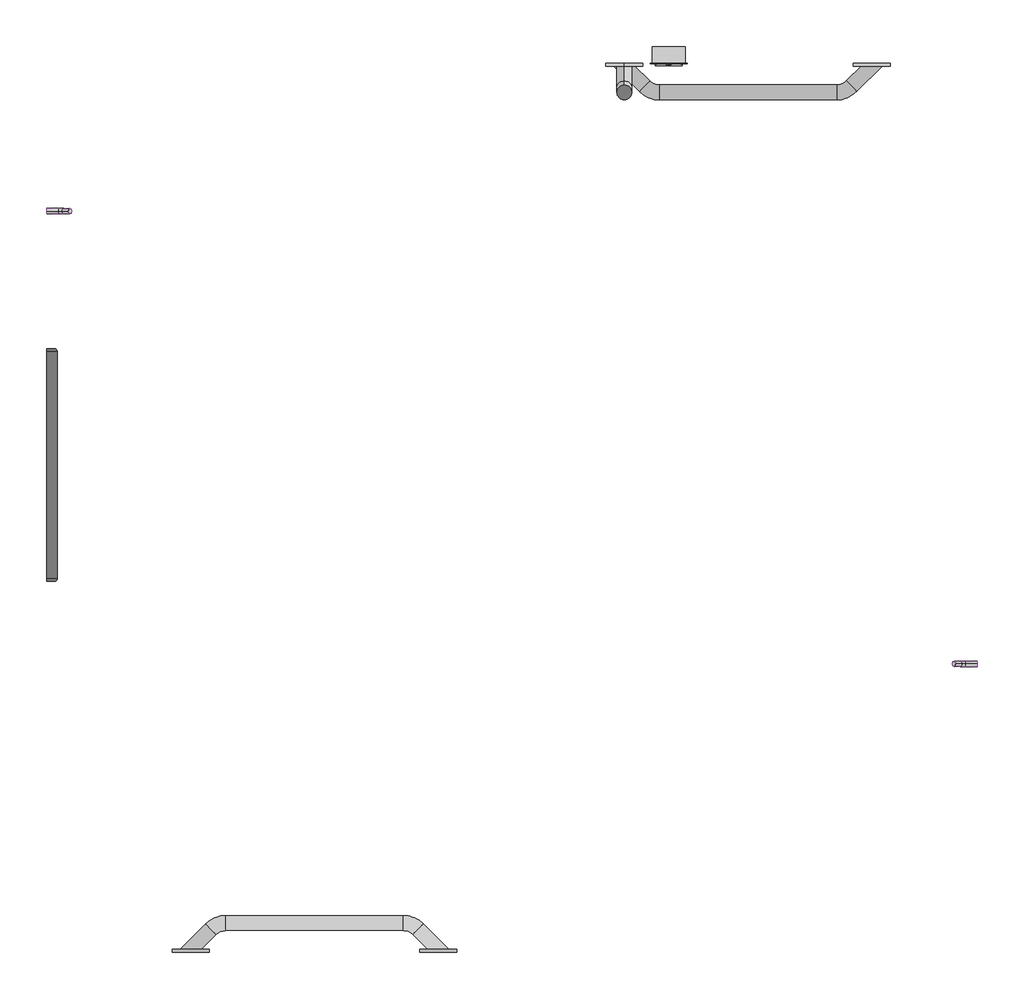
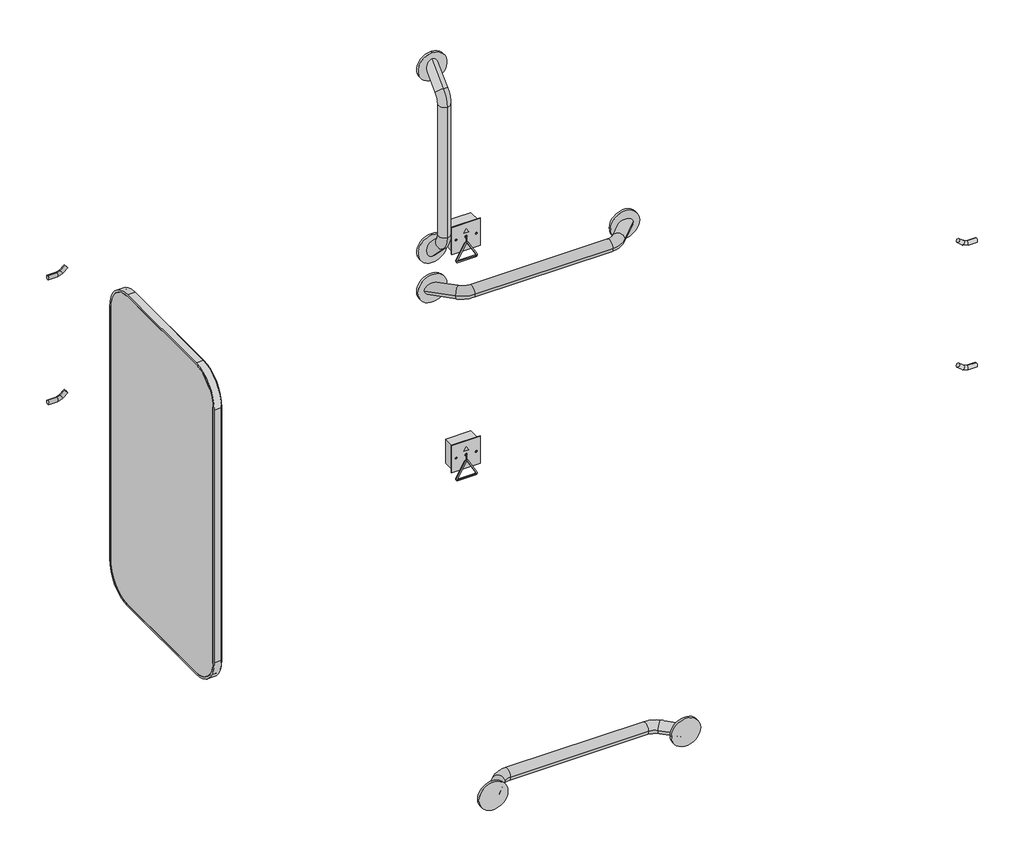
# One storey, incomplete: 10 proxies.
"""IFC4 building model written with IfcOpenShell, lengths in millimetres."""

import ifcopenshell
import ifcopenshell.guid

model = None  # the IFC model being written
_history = None  # IfcOwnerHistory: only IFC2X3 demands one
_inside = {}  # id of a spatial element -> (the spatial element, [elements in it])
_under = {}  # id of a project, library or spatial element -> (it, [spatial elements below it])
_declared = {}  # id of a project -> (the project, [libraries it declares])
_typed = {}  # id of a type object -> (the type object, [elements of that type])
_made_of = {}  # id of a material, layer set ... -> (it, [elements and type objects made of it])


def new_model(schema):
    """Start an empty IFC model of exactly this schema.

    Asked for "IFC4X3", IfcOpenShell would pick the latest addendum, in which some entities
    have other attributes; the version numbers below select the first issue.
    IFC2X3 requires an IfcOwnerHistory on every rooted entity: one is made here for all.
    """
    global model, _history
    if schema == "IFC4X3":
        model = ifcopenshell.file(schema_version=(4, 3, 0, 0))
    else:
        model = ifcopenshell.file(schema=schema)
    _inside.clear()
    _under.clear()
    _declared.clear()
    _typed.clear()
    _made_of.clear()
    _history = None
    if model.schema == "IFC2X3":
        org = make("IfcOrganization", Name="unknown")
        user = make(
            "IfcPersonAndOrganization",
            ThePerson=make("IfcPerson", FamilyName="unknown"),
            TheOrganization=org,
        )
        app = make(
            "IfcApplication",
            ApplicationDeveloper=org,
            Version="unknown",
            ApplicationFullName="unknown",
            ApplicationIdentifier="unknown",
        )
        _history = make(
            "IfcOwnerHistory",
            OwningUser=user,
            OwningApplication=app,
            ChangeAction="ADDED",
            CreationDate=0,
        )
    return model


def make(cls, **values):
    """One entity of the class cls with the attributes given. An attribute that is None is left unset."""
    return model.create_entity(
        cls, **{name: value for name, value in values.items() if value is not None}
    )


def rooted(cls, **values):
    """An entity with a GlobalId (a new one), such as an element, a storey or a relation."""
    return make(cls, GlobalId=ifcopenshell.guid.new(), OwnerHistory=_history, **values)


def si_unit(unit_type, name, prefix=None):
    """IfcSIUnit, for example si_unit("LENGTHUNIT", "METRE", prefix="MILLI")."""
    return make("IfcSIUnit", UnitType=unit_type, Prefix=prefix, Name=name)


def assignment(units):
    """IfcUnitAssignment: the units of a project."""
    return None if units is None else make("IfcUnitAssignment", Units=units)


def point(xyz):
    """IfcCartesianPoint."""
    return None if xyz is None else make("IfcCartesianPoint", Coordinates=xyz)


def direction(xyz):
    """IfcDirection."""
    return None if xyz is None else make("IfcDirection", DirectionRatios=xyz)


def frame(location, z_axis=None, x_axis=None):
    """IfcAxis2Placement3D, a coordinate frame: its origin and axes. An axis left out is left unset."""
    return make(
        "IfcAxis2Placement3D",
        Location=point(location),
        Axis=direction(z_axis),
        RefDirection=direction(x_axis),
    )


def frame_2d(location, x_axis=None):
    """IfcAxis2Placement2D, a coordinate frame in the plane: its origin and x axis."""
    return make(
        "IfcAxis2Placement2D", Location=point(location), RefDirection=direction(x_axis)
    )


def origin():
    """The frame at (0, 0, 0) with its axes left unset."""
    return frame((0.0, 0.0, 0.0))


def place(relative_to, where):
    """IfcLocalPlacement: puts the frame where relative to a parent placement (None: the world)."""
    return make(
        "IfcLocalPlacement", PlacementRelTo=relative_to, RelativePlacement=where
    )


def context(
    kind, dimensions, precision=None, world=None, true_north=None, identifier=None
):
    """IfcGeometricRepresentationContext, for example the 3D "Model" context."""
    return make(
        "IfcGeometricRepresentationContext",
        ContextIdentifier=identifier,
        ContextType=kind,
        CoordinateSpaceDimension=dimensions,
        Precision=precision,
        WorldCoordinateSystem=world,
        TrueNorth=true_north,
    )


def project(units=None, contexts=None):
    """IfcProject with its units and contexts."""
    return rooted(
        "IfcProject",
        Name="project",
        RepresentationContexts=contexts,
        UnitsInContext=assignment(units),
    )


def spatial(cls, under=None, at=None, **own):
    """A site, building, storey or space (cls), placed at a placement, below another one or the project."""
    s = rooted(cls, ObjectPlacement=at, **own)
    if under is not None:
        _under.setdefault(under.id(), (under, []))[1].append(s)
    return s


def polyline(points):
    """IfcPolyline through the points."""
    return make("IfcPolyline", Points=[point(p) for p in points])


def circle_curve(where, radius):
    """IfcCircle in the frame where."""
    return make("IfcCircle", Position=where, Radius=radius)


def ellipse_curve(where, semi_axis1, semi_axis2):
    """IfcEllipse in the frame where."""
    return make(
        "IfcEllipse", Position=where, SemiAxis1=semi_axis1, SemiAxis2=semi_axis2
    )


def trimmed(basis, trim1, trim2, sense, master):
    """IfcTrimmedCurve: the piece of a basis curve between two trims."""
    return make(
        "IfcTrimmedCurve",
        BasisCurve=basis,
        Trim1=trim1,
        Trim2=trim2,
        SenseAgreement=sense,
        MasterRepresentation=master,
    )


def segment(curve, same_sense, transition):
    """IfcCompositeCurveSegment."""
    return make(
        "IfcCompositeCurveSegment",
        Transition=transition,
        SameSense=same_sense,
        ParentCurve=curve,
    )


def composite_curve(segments, self_intersect=None):
    """IfcCompositeCurve: segments joined end to end."""
    return make("IfcCompositeCurve", Segments=segments, SelfIntersect=self_intersect)


def outline(outer, holes=None, kind="AREA"):
    """IfcArbitraryClosedProfileDef: a profile drawn as a closed curve; with holes, ...WithVoids."""
    if holes is None:
        return make("IfcArbitraryClosedProfileDef", ProfileType=kind, OuterCurve=outer)
    return make(
        "IfcArbitraryProfileDefWithVoids",
        ProfileType=kind,
        OuterCurve=outer,
        InnerCurves=holes,
    )


def extrude(swept, where, along, depth):
    """IfcExtrudedAreaSolid: the profile swept, set in the frame where, extruded along a direction by depth."""
    return make(
        "IfcExtrudedAreaSolid",
        SweptArea=swept,
        Position=where,
        ExtrudedDirection=direction(along),
        Depth=depth,
    )


def shape(context_of_items, identifier, shape_type, items):
    """IfcShapeRepresentation: the items that make up one representation, for example the "Body"."""
    return make(
        "IfcShapeRepresentation",
        ContextOfItems=context_of_items,
        RepresentationIdentifier=identifier,
        RepresentationType=shape_type,
        Items=items,
    )


def source(mapping_origin, context_of_items, identifier, shape_type, items):
    """IfcRepresentationMap: a shape defined once, which mapped items show again and again."""
    return make(
        "IfcRepresentationMap",
        MappingOrigin=mapping_origin,
        MappedRepresentation=shape(context_of_items, identifier, shape_type, items),
    )


def transform(
    local_origin,
    x_axis=None,
    y_axis=None,
    z_axis=None,
    scale=None,
    scale2=None,
    scale3=None,
    uniform=True,
):
    """IfcCartesianTransformationOperator3D, or its non-uniform kind. x_axis, y_axis, z_axis: its Axis1, 2, 3."""
    if uniform:
        return make(
            "IfcCartesianTransformationOperator3D",
            Axis1=direction(x_axis),
            Axis2=direction(y_axis),
            LocalOrigin=point(local_origin),
            Scale=scale,
            Axis3=direction(z_axis),
        )
    return make(
        "IfcCartesianTransformationOperator3DnonUniform",
        Axis1=direction(x_axis),
        Axis2=direction(y_axis),
        LocalOrigin=point(local_origin),
        Scale=scale,
        Axis3=direction(z_axis),
        Scale2=scale2,
        Scale3=scale3,
    )


def mapped(mapping_source, mapping_target):
    """IfcMappedItem: shows the shape of a source again, moved by a transform."""
    return make(
        "IfcMappedItem", MappingSource=mapping_source, MappingTarget=mapping_target
    )


def made_of(thing, what):
    """Note that an element or type object is made of a material, layer set ...; save() writes the relation."""
    if what is not None:
        _made_of.setdefault(what.id(), (what, []))[1].append(thing)
    return thing


def element(
    cls,
    number,
    at=None,
    inside=None,
    cuts=None,
    type_object=None,
    material=None,
    context=None,
    identifier="Body",
    shape_type=None,
    held_by="IfcProductDefinitionShape",
    body=None,
    shapes=None,
    **own,
):
    """One element of the class cls, such as IfcWall. Its Tag is "e" and its number.

    at: its placement. inside: the storey or other place that contains it. cuts: it is an
    opening in that element (IfcRelVoidsElement). A single representation is given by context,
    identifier, shape_type and body (its items); several are given by shapes. held_by: the class
    of the entity that holds the representations. save() writes the other relations.
    """
    e = rooted(cls, Tag="e%d" % number, ObjectPlacement=at, **own)
    if body is not None:
        shapes = [shape(context, identifier, shape_type, body)]
    if shapes is not None:
        e.Representation = make(held_by, Representations=shapes)
    if inside is not None:
        _inside.setdefault(inside.id(), (inside, []))[1].append(e)
    if cuts is not None:
        rooted(
            "IfcRelVoidsElement", RelatingBuildingElement=cuts, RelatedOpeningElement=e
        )
    if type_object is not None:
        _typed.setdefault(type_object.id(), (type_object, []))[1].append(e)
    return made_of(e, material)


def aggregate(whole, parts):
    """IfcRelAggregates: a whole, such as a stair, and the parts it consists of."""
    return rooted("IfcRelAggregates", RelatingObject=whole, RelatedObjects=parts)


def save(model, path):
    """Write the relations noted so far, then the file.

    IfcRelAggregates (storeys below a building ...), IfcRelContainedInSpatialStructure (elements
    in a storey), IfcRelDefinesByType, IfcRelAssociatesMaterial and IfcRelDeclares: one each for
    every whole, place, type object, material and project.
    """
    for whole, parts in _under.values():
        aggregate(whole, parts)
    for where, things in _inside.values():
        rooted(
            "IfcRelContainedInSpatialStructure",
            RelatedElements=things,
            RelatingStructure=where,
        )
    for kind, things in _typed.values():
        rooted("IfcRelDefinesByType", RelatedObjects=things, RelatingType=kind)
    for what, things in _made_of.values():
        rooted("IfcRelAssociatesMaterial", RelatedObjects=things, RelatingMaterial=what)
    for by, libraries in _declared.values():
        rooted("IfcRelDeclares", RelatingContext=by, RelatedDefinitions=libraries)
    model.write(path)


def plane_surface(at):
    """IfcPlane: the flat surface through the origin of the frame at, square to its z axis."""
    return make("IfcPlane", Position=at)


def cylinder_surface(at, radius):
    """IfcCylindricalSurface: all points at the distance radius from the z axis of the frame at."""
    return make("IfcCylindricalSurface", Position=at, Radius=radius)


def revolved_surface(curve, axis_point, axis_direction):
    """IfcSurfaceOfRevolution: the curve turned about the line through axis_point along axis_direction."""
    return make(
        "IfcSurfaceOfRevolution",
        SweptCurve=make("IfcArbitraryOpenProfileDef", ProfileType="CURVE", Curve=curve),
        AxisPosition=make("IfcAxis1Placement", Location=point(axis_point), Axis=direction(axis_direction)),
    )


def advanced_brep(points, edges, surfaces, faces):
    """IfcAdvancedBrep: a solid bounded by faces that lie on surfaces and meet in shared edges.

    An edge is (start, end): straight between two places in points (the first is 0);
    or (start, end, curve); or (start, end, curve, False) where it runs against its curve.
    A face is (place in surfaces, loops), or (place, loops, False) where it looks against
    its surface's normal. A loop lists edges by number (the first is 1), with a minus sign
    where the edge is run from its end to its start. The first loop is the outer one.
    """
    corners = [point(p) for p in points]
    vertices = [make("IfcVertexPoint", VertexGeometry=c) for c in corners]
    made = []
    for start, end, *more in edges:
        made.append(
            make(
                "IfcEdgeCurve",
                EdgeStart=vertices[start],
                EdgeEnd=vertices[end],
                EdgeGeometry=more[0] if more else make("IfcPolyline", Points=[corners[start], corners[end]]),
                SameSense=more[1] if len(more) > 1 else True,
            )
        )
    hull = []
    for where, loops, *sense in faces:
        bounds = []
        for j, loop in enumerate(loops):
            ring = [make("IfcOrientedEdge", EdgeElement=made[abs(k) - 1], Orientation=k > 0) for k in loop]
            bounds.append(
                make(
                    "IfcFaceOuterBound" if j == 0 else "IfcFaceBound",
                    Bound=make("IfcEdgeLoop", EdgeList=ring),
                    Orientation=True,
                )
            )
        hull.append(make("IfcAdvancedFace", Bounds=bounds, FaceSurface=surfaces[where], SameSense=sense[0] if sense else True))
    return make("IfcAdvancedBrep", Outer=make("IfcClosedShell", CfsFaces=hull))


def communication_devices_a7ff74ee(model_context):
    return source(origin(), model_context, "Body", "SolidModel", [
        extrude(outline(composite_curve([segment(trimmed(circle_curve(frame_2d((-67.361288, -27.3402639)), 5.0), [point((-64.8615123, -31.6705204))], [point((-72.361288, -27.3402639))], False, "CARTESIAN"), True, "CONTINUOUS"), segment(polyline([(-72.361288, -27.3402639), (-72.361288, 27.3402639)]), True, "CONTINUOUS"), segment(trimmed(circle_curve(frame_2d((-67.361288, 27.3402639)), 5.0), [point((-72.361288, 27.3402639))], [point((-64.8615123, 31.6705204))], False, "CARTESIAN"), True, "CONTINUOUS"), segment(polyline([(-64.8615123, 31.6705204), (-17.5011215, 4.3302565)]), True, "CONTINUOUS"), segment(trimmed(circle_curve(frame_2d((-20.0008972, 0.0)), 5.0), [point((-17.5011215, 4.3302565))], [point((-17.5011215, -4.3302565))], False, "CARTESIAN"), True, "CONTINUOUS"), segment(polyline([(-17.5011215, -4.3302565), (-64.8615123, -31.6705204)]), True, "CONTINUOUS")], self_intersect=False), holes=[composite_curve([segment(polyline([(-19.500942, 0.8660513), (-66.8613329, 28.2063152)]), True, "CONTINUOUS"), segment(trimmed(circle_curve(frame_2d((-67.361288, 27.3402639)), 1.0), [point((-66.8613329, 28.2063152))], [point((-68.361288, 27.3402639))], True, "CARTESIAN"), True, "CONTINUOUS"), segment(polyline([(-68.361288, 27.3402639), (-68.361288, -27.3402639)]), True, "CONTINUOUS"), segment(trimmed(circle_curve(frame_2d((-67.361288, -27.3402639)), 1.0), [point((-68.361288, -27.3402639))], [point((-66.8613329, -28.2063152))], True, "CARTESIAN"), True, "CONTINUOUS"), segment(polyline([(-66.8613329, -28.2063152), (-19.500942, -0.8660513)]), True, "CONTINUOUS"), segment(trimmed(circle_curve(frame_2d((-20.0008972, 0.0)), 1.0), [point((-19.500942, -0.8660513))], [point((-19.500942, 0.8660513))], True, "CARTESIAN"), True, "CONTINUOUS")], self_intersect=False)]), frame((0.0, -6.0, 0.0), z_axis=(0.0, 1.0, 0.0), x_axis=(0.0, 0.0, 1.0)), (0.0, 0.0, 1.0), 3.0),
        advanced_brep(
        [(-1.0, 0.0, 0.0), (1.0, 0.0, 0.0), (-1.0, -0.9148372, 0.0), (1.0, -0.9148372, 0.0), (1.0, -4.5, -3.5851628), (-1.0, -4.5, -3.5851628), (-1.0, -4.5, -16.999984), (1.0, -4.5, -16.999984)],
        [
            (0, 1, circle_curve(frame((0.0, 0.0, 0.0), z_axis=(0.0, 1.0, 0.0), x_axis=(1.0, 0.0, 0.0)), 1.0)),
            (1, 0, circle_curve(frame((0.0, 0.0, 0.0), z_axis=(0.0, 1.0, 0.0), x_axis=(1.0, 0.0, 0.0)), 1.0)),
            (0, 2),
            (2, 3, circle_curve(frame((0.0, -0.9148372, 0.0), z_axis=(0.0, 1.0, 0.0), x_axis=(1.0, 0.0, 0.0)), 1.0)),
            (3, 1),
            (3, 2, circle_curve(frame((0.0, -0.9148372, 0.0), z_axis=(0.0, 1.0, 0.0), x_axis=(1.0, 0.0, 0.0)), 1.0)),
            (4, 3, circle_curve(frame((1.0, -0.9148372, -3.5851628), z_axis=(-1.0, 0.0, 0.0), x_axis=(0.0, 0.0, 1.0)), 3.5851628)),
            (2, 5, circle_curve(frame((-1.0, -0.9148372, -3.5851628), z_axis=(1.0, 0.0, 0.0), x_axis=(0.0, 0.0, 1.0)), 3.5851628)),
            (5, 4, circle_curve(frame((0.0, -4.5, -3.5851628), z_axis=(0.0, 0.0, 1.0), x_axis=(1.0, 0.0, 0.0)), 1.0)),
            (4, 5, circle_curve(frame((0.0, -4.5, -3.5851628), z_axis=(0.0, 0.0, 1.0), x_axis=(1.0, 0.0, 0.0)), 1.0)),
            (6, 7, circle_curve(frame((0.0, -4.5, -16.999984), z_axis=(0.0, 0.0, -1.0), x_axis=(1.0, 0.0, 0.0)), 1.0)),
            (7, 6, circle_curve(frame((0.0, -4.5, -16.999984), z_axis=(0.0, 0.0, -1.0), x_axis=(1.0, 0.0, 0.0)), 1.0)),
            (5, 6),
            (7, 4),
        ],
        [
            plane_surface(frame((0.0, 0.0, 0.0), z_axis=(0.0, 1.0, 0.0), x_axis=(1.0, 0.0, 0.0))),
            cylinder_surface(frame((0.0, 0.0, 0.0), z_axis=(0.0, 1.0, 0.0), x_axis=(1.0, 0.0, 0.0)), 1.0),
            revolved_surface(trimmed(ellipse_curve(frame((0.0, -0.9148372, 0.0), z_axis=(0.0, 1.0, 0.0), x_axis=(1.0, 0.0, 0.0)), 1.0, 1.0), [point((-1.0, -0.9148372, 0.0))], [point((1.0, -0.9148372, 0.0))], True, "CARTESIAN"), (0.0, -0.9148372, -3.5851628), (1.0, 0.0, 0.0)),
            revolved_surface(trimmed(ellipse_curve(frame((0.0, -0.9148372, 0.0), z_axis=(0.0, 1.0, 0.0), x_axis=(1.0, 0.0, 0.0)), 1.0, 1.0), [point((1.0, -0.9148372, 0.0))], [point((-1.0, -0.9148372, 0.0))], True, "CARTESIAN"), (0.0, -0.9148372, -3.5851628), (1.0, 0.0, 0.0)),
            plane_surface(frame((0.0, -4.5, -16.999984), z_axis=(0.0, 0.0, -1.0), x_axis=(1.0, 0.0, 0.0))),
            cylinder_surface(frame((0.0, -4.5, -3.5851628), z_axis=(0.0, 0.0, 1.0), x_axis=(1.0, 0.0, 0.0)), 1.0),
        ],
        [
            (0, [[1, 2]]),
            (1, [[-1, 3, 4, 5]]),
            (1, [[-2, -5, 6, -3]]),
            (2, [[7, -4, 8, 9]]),
            (3, [[-8, -6, -7, 10]]),
            (4, [[11, 12]]),
            (5, [[-9, 13, -12, 14]]),
            (5, [[-10, -14, -11, -13]]),
        ],
    ),
        advanced_brep(
        [(43.5, -2.0, 43.5), (-43.5, -2.0, 43.5), (-43.5, -2.0, -43.5), (43.5, -2.0, -43.5), (4.0, -2.0, 0.0), (-4.0, -2.0, 0.0), (43.5, 0.0, 43.5), (43.5, 0.0, -43.5), (-43.5, 0.0, -43.5), (-43.5, 0.0, 43.5), (-1.5, 0.0, 0.0), (1.5, 0.0, 0.0), (-1.5, -1.139181, 0.0), (1.5, -1.139181, 0.0)],
        [
            (0, 1),
            (1, 2),
            (2, 3),
            (3, 0),
            (4, 5, circle_curve(frame((0.0, -2.0, 0.0), z_axis=(0.0, 1.0, 0.0), x_axis=(1.0, 0.0, 0.0)), 4.0)),
            (5, 4, circle_curve(frame((0.0, -2.0, 0.0), z_axis=(0.0, 1.0, 0.0), x_axis=(1.0, 0.0, 0.0)), 4.0)),
            (6, 7),
            (7, 8),
            (8, 9),
            (9, 6),
            (10, 11, circle_curve(frame((0.0, 0.0, 0.0), z_axis=(0.0, -1.0, 0.0), x_axis=(1.0, 0.0, 0.0)), 1.5)),
            (11, 10, circle_curve(frame((0.0, 0.0, 0.0), z_axis=(0.0, -1.0, 0.0), x_axis=(1.0, 0.0, 0.0)), 1.5)),
            (0, 6),
            (9, 1),
            (8, 2),
            (7, 3),
            (10, 12),
            (12, 13, circle_curve(frame((0.0, -1.139181, 0.0), z_axis=(0.0, -1.0, 0.0), x_axis=(1.0, 0.0, 0.0)), 1.5)),
            (13, 11),
            (13, 12, circle_curve(frame((0.0, -1.139181, 0.0), z_axis=(0.0, -1.0, 0.0), x_axis=(1.0, 0.0, 0.0)), 1.5)),
            (12, 5),
            (4, 13),
        ],
        [
            plane_surface(frame((-43.5, -2.0, 43.5), z_axis=(0.0, -1.0, 0.0), x_axis=(-1.0, 0.0, 0.0))),
            plane_surface(frame((-43.5, 0.0, 43.5), z_axis=(0.0, 1.0, 0.0), x_axis=(1.0, 0.0, 0.0))),
            plane_surface(frame((43.5, -2.0, 43.5), z_axis=(0.0, 0.0, 1.0), x_axis=(0.0, 1.0, 0.0))),
            plane_surface(frame((-43.5, -2.0, 43.5), z_axis=(-1.0, 0.0, 0.0), x_axis=(0.0, 1.0, 0.0))),
            plane_surface(frame((-43.5, -2.0, -43.5), z_axis=(0.0, 0.0, -1.0), x_axis=(0.0, 1.0, 0.0))),
            plane_surface(frame((43.5, -2.0, -43.5), z_axis=(1.0, 0.0, 0.0), x_axis=(0.0, 1.0, 0.0))),
            revolved_surface(polyline([(1.5, 0.0, 0.0), (1.5, -1.1391809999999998, 0.0)]), (0.0, 5.0, 0.0), (0.0, 1.0, 0.0)),
            revolved_surface(polyline([(1.5, -1.139181, 0.0), (4.0, -2.0, 0.0)]), (0.0, 5.0, 0.0), (0.0, 1.0, 0.0)),
        ],
        [
            (0, [[1, 2, 3, 4], [5, 6]]),
            (1, [[7, 8, 9, 10], [11, 12]]),
            (2, [[-1, 13, -10, 14]]),
            (3, [[-2, -14, -9, 15]]),
            (4, [[-3, -15, -8, 16]]),
            (5, [[-4, -16, -7, -13]]),
            (6, [[17, 18, 19, -11]]),
            (6, [[-17, -12, -19, 20]]),
            (7, [[-18, 21, -5, 22]]),
            (7, [[-20, -22, -6, -21]]),
        ],
    ),
        extrude(outline(polyline([(25.5508055, 0.0), (13.4249995, -7.0), (13.4249995, 7.0), (25.5508055, 0.0)])), frame((0.0, -3.0, 0.0), z_axis=(0.0, 1.0, 0.0), x_axis=(0.0, 0.0, 1.0)), (0.0, 0.0, 1.0), 1.0),
        advanced_brep(
        [(34.0, -2.0, 0.0), (27.0, -2.0, 0.0), (30.5, -2.0, 0.0), (30.5, -3.3586121, 0.0)],
        [
            (0, 1, circle_curve(frame((30.5, -2.0, 0.0), z_axis=(0.0, 1.0, 0.0), x_axis=(-1.0, 0.0, 0.0)), 3.5)),
            (1, 2),
            (2, 0),
            (1, 0, circle_curve(frame((30.5, -2.0, 0.0), z_axis=(0.0, 1.0, 0.0), x_axis=(-1.0, 0.0, 0.0)), 3.5)),
            (3, 1, ellipse_curve(frame((30.5, -2.0, 0.0), z_axis=(0.0, 0.0, -1.0), x_axis=(1.0, 0.0, 0.0)), 3.5, 1.3586121)),
            (0, 3, ellipse_curve(frame((30.5, -2.0, 0.0), z_axis=(0.0, 0.0, -1.0), x_axis=(-1.0, 0.0, 0.0)), 3.5, 1.3586121)),
        ],
        [
            plane_surface(frame((30.5, -2.0, 0.0), z_axis=(0.0, 1.0, 0.0), x_axis=(-1.0, 0.0, 0.0))),
            revolved_surface(trimmed(ellipse_curve(frame((30.5, -2.0, 0.0), z_axis=(0.0, 0.0, 1.0), x_axis=(1.0, 0.0, 0.0)), 3.5, 1.3586121), [point((27.0, -2.0, 0.0))], [point((30.5, -3.3586121, 0.0))], True, "CARTESIAN"), (30.5, 13.8518062, 0.0), (0.0, -1.0, 0.0)),
        ],
        [
            (0, [[1, 2, 3]]),
            (0, [[4, -3, -2]]),
            (1, [[5, -1, 6]]),
            (1, [[-6, -4, -5]]),
        ],
    ),
        advanced_brep(
        [(-30.5, -2.0, 0.0), (-27.0, -2.0, 0.0), (-34.0, -2.0, 0.0), (-30.5, -3.3586121, 0.0)],
        [
            (0, 1),
            (1, 2, circle_curve(frame((-30.5, -2.0, 0.0), z_axis=(0.0, 1.0, 0.0), x_axis=(1.0, 0.0, 0.0)), 3.5)),
            (2, 0),
            (2, 1, circle_curve(frame((-30.5, -2.0, 0.0), z_axis=(0.0, 1.0, 0.0), x_axis=(1.0, 0.0, 0.0)), 3.5)),
            (1, 3, ellipse_curve(frame((-30.5, -2.0, 0.0), z_axis=(0.0, 0.0, -1.0), x_axis=(-1.0, 0.0, 0.0)), 3.5, 1.3586121)),
            (3, 2, ellipse_curve(frame((-30.5, -2.0, 0.0), z_axis=(0.0, 0.0, -1.0), x_axis=(1.0, 0.0, 0.0)), 3.5, 1.3586121)),
        ],
        [
            plane_surface(frame((-30.5, -2.0, 0.0), z_axis=(0.0, 1.0, 0.0), x_axis=(1.0, 0.0, 0.0))),
            revolved_surface(trimmed(ellipse_curve(frame((-30.5, -2.0, 0.0), z_axis=(0.0, 0.0, 1.0), x_axis=(-1.0, 0.0, 0.0)), 3.5, 1.3586121), [point((-30.5, -3.3586121, 0.0))], [point((-27.0, -2.0, 0.0))], True, "CARTESIAN"), (-30.5, 13.8518062, 0.0), (0.0, 1.0, 0.0)),
        ],
        [
            (0, [[1, 2, 3]]),
            (0, [[-3, 4, -1]]),
            (1, [[-2, 5, 6]]),
            (1, [[-4, -6, -5]]),
        ],
    ),
        extrude(outline(polyline([(38.5, 0.0), (-38.5, 0.0), (-38.5, 39.0), (38.5, 39.0), (38.5, 0.0)])), frame((0.0, 0.0, -38.5), z_axis=(0.0, 0.0, 1.0), x_axis=(1.0, 0.0, 0.0)), (0.0, 0.0, 1.0), 77.0),
    ])


def specialty_equipment_9f1add43(model_context):
    return source(origin(), model_context, "Body", "SolidModel", [
        advanced_brep(
        [(179.3875, 0.0, 1600.125), (-179.3875, 0.0, 1600.125), (-274.6375, 0.0, 1504.875), (-274.6375, 0.0, 695.25), (-179.3875, 0.0, 600.0), (179.3875, 0.0, 600.0), (274.6375, 0.0, 695.25), (274.6375, 0.0, 1504.875), (-268.2875, 0.0, 1504.875), (-179.3875, 0.0, 1593.775), (179.3875, 0.0, 1593.775), (268.2875, 0.0, 1504.875), (268.2875, 0.0, 695.25), (179.3875, 0.0, 606.35), (-179.3875, 0.0, 606.35), (-268.2875, 0.0, 695.25), (179.3875, 22.225, 1600.125), (-179.3875, 22.225, 1600.125), (-274.6375, 22.225, 1504.875), (-274.6375, 22.225, 695.25), (-179.3875, 22.225, 600.0), (179.3875, 22.225, 600.0), (274.6375, 22.225, 695.25), (274.6375, 22.225, 1504.875), (-268.2875, 22.225, 1504.875), (-179.3875, 22.225, 1593.775), (-179.3875, 25.4, 1593.775), (179.3875, 25.4, 1593.775), (179.3875, 22.225, 1593.775), (268.2875, 22.225, 1504.875), (268.2875, 25.4, 1504.875), (268.2875, 25.4, 695.25), (268.2875, 22.225, 695.25), (179.3875, 22.225, 606.35), (179.3875, 25.4, 606.35), (-179.3875, 25.4, 606.35), (-179.3875, 22.225, 606.35), (-268.2875, 22.225, 695.25), (-268.2875, 25.4, 695.25), (-268.2875, 25.4, 1504.875)],
        [
            (0, 1),
            (1, 2, circle_curve(frame((-179.3875, 0.0, 1504.875), z_axis=(0.0, -1.0, 0.0), x_axis=(1.0, 0.0, 0.0)), 95.25)),
            (2, 3),
            (3, 4, circle_curve(frame((-179.3875, 0.0, 695.25), z_axis=(0.0, -1.0, 0.0), x_axis=(1.0, 0.0, 0.0)), 95.25)),
            (4, 5),
            (5, 6, circle_curve(frame((179.3875, 0.0, 695.25), z_axis=(0.0, -1.0, 0.0), x_axis=(1.0, 0.0, 0.0)), 95.25)),
            (6, 7),
            (7, 0, circle_curve(frame((179.3875, 0.0, 1504.875), z_axis=(0.0, -1.0, 0.0), x_axis=(1.0, 0.0, 0.0)), 95.25)),
            (8, 9, circle_curve(frame((-179.3875, 0.0, 1504.875), z_axis=(0.0, 1.0, 0.0), x_axis=(1.0, 0.0, 0.0)), 88.9)),
            (9, 10),
            (10, 11, circle_curve(frame((179.3875, 0.0, 1504.875), z_axis=(0.0, 1.0, 0.0), x_axis=(1.0, 0.0, 0.0)), 88.9)),
            (11, 12),
            (12, 13, circle_curve(frame((179.3875, 0.0, 695.25), z_axis=(0.0, 1.0, 0.0), x_axis=(1.0, 0.0, 0.0)), 88.9)),
            (13, 14),
            (14, 15, circle_curve(frame((-179.3875, 0.0, 695.25), z_axis=(0.0, 1.0, 0.0), x_axis=(1.0, 0.0, 0.0)), 88.9)),
            (15, 8),
            (0, 16),
            (16, 17),
            (17, 1),
            (2, 18),
            (18, 19),
            (19, 3),
            (4, 20),
            (20, 21),
            (21, 5),
            (6, 22),
            (22, 23),
            (23, 7),
            (17, 18, circle_curve(frame((-179.3875, 22.225, 1504.875), z_axis=(0.0, -1.0, 0.0), x_axis=(1.0, 0.0, 0.0)), 95.25)),
            (19, 20, circle_curve(frame((-179.3875, 22.225, 695.25), z_axis=(0.0, -1.0, 0.0), x_axis=(1.0, 0.0, 0.0)), 95.25)),
            (21, 22, circle_curve(frame((179.3875, 22.225, 695.25), z_axis=(0.0, -1.0, 0.0), x_axis=(1.0, 0.0, 0.0)), 95.25)),
            (23, 16, circle_curve(frame((179.3875, 22.225, 1504.875), z_axis=(0.0, -1.0, 0.0), x_axis=(1.0, 0.0, 0.0)), 95.25)),
            (8, 24),
            (24, 25, circle_curve(frame((-179.3875, 22.225, 1504.875), z_axis=(0.0, 1.0, 0.0), x_axis=(1.0, 0.0, 0.0)), 88.9)),
            (25, 9),
            (25, 26),
            (26, 27),
            (27, 28),
            (28, 10),
            (28, 29, circle_curve(frame((179.3875, 22.225, 1504.875), z_axis=(0.0, 1.0, 0.0), x_axis=(1.0, 0.0, 0.0)), 88.9)),
            (29, 11),
            (29, 30),
            (30, 31),
            (31, 32),
            (32, 12),
            (32, 33, circle_curve(frame((179.3875, 22.225, 695.25), z_axis=(0.0, 1.0, 0.0), x_axis=(1.0, 0.0, 0.0)), 88.9)),
            (33, 13),
            (33, 34),
            (34, 35),
            (35, 36),
            (36, 14),
            (36, 37, circle_curve(frame((-179.3875, 22.225, 695.25), z_axis=(0.0, 1.0, 0.0), x_axis=(1.0, 0.0, 0.0)), 88.9)),
            (37, 15),
            (37, 38),
            (38, 39),
            (39, 24),
            (38, 19, circle_curve(frame((-267.5124031, 15.9123063, 695.25), z_axis=(0.0, 0.0, 1.0), x_axis=(0.0, 1.0, 0.0)), 9.5193018)),
            (18, 39, circle_curve(frame((-267.5124031, 15.9123063, 1504.875), z_axis=(0.0, 0.0, -1.0), x_axis=(0.0, 1.0, 0.0)), 9.5193018)),
            (35, 38, circle_curve(frame((-179.3875, 25.4, 695.25), z_axis=(0.0, 1.0, 0.0), x_axis=(-1.0, 0.0, 0.0)), 88.9)),
            (35, 20, circle_curve(frame((-179.3875, 15.9123063, 607.1250969), z_axis=(-1.0, 0.0, 0.0), x_axis=(0.0, 1.0, 0.0)), 9.5193018)),
            (34, 21, circle_curve(frame((179.3875, 15.9123063, 607.1250969), z_axis=(-1.0, 0.0, 0.0), x_axis=(0.0, 1.0, 0.0)), 9.5193018)),
            (31, 34, circle_curve(frame((179.3875, 25.4, 695.25), z_axis=(0.0, 1.0, 0.0), x_axis=(0.0, 0.0, -1.0)), 88.9)),
            (31, 22, circle_curve(frame((267.5124031, 15.9123063, 695.25), z_axis=(0.0, 0.0, -1.0), x_axis=(0.0, 1.0, 0.0)), 9.5193018)),
            (30, 23, circle_curve(frame((267.5124031, 15.9123063, 1504.875), z_axis=(0.0, 0.0, -1.0), x_axis=(0.0, 1.0, 0.0)), 9.5193018)),
            (27, 30, circle_curve(frame((179.3875, 25.4, 1504.875), z_axis=(0.0, 1.0, 0.0), x_axis=(1.0, 0.0, 0.0)), 88.9)),
            (27, 16, circle_curve(frame((179.3875, 15.9123063, 1592.9999031), z_axis=(1.0, 0.0, 0.0), x_axis=(0.0, 1.0, 0.0)), 9.5193018)),
            (26, 17, circle_curve(frame((-179.3875, 15.9123063, 1592.9999031), z_axis=(1.0, 0.0, 0.0), x_axis=(0.0, 1.0, 0.0)), 9.5193018)),
            (39, 26, circle_curve(frame((-179.3875, 25.4, 1504.875), z_axis=(0.0, 1.0, 0.0), x_axis=(0.0, 0.0, 1.0)), 88.9)),
        ],
        [
            plane_surface(frame((-179.3875, 0.0, 1600.125), z_axis=(0.0, -1.0, 0.0), x_axis=(1.0, 0.0, 0.0))),
            plane_surface(frame((179.3875, 22.225, 1600.125), z_axis=(0.0, 0.0, 1.0), x_axis=(0.0, -1.0, 0.0))),
            plane_surface(frame((-274.6375, 22.225, 1504.875), z_axis=(-1.0, 0.0, 0.0), x_axis=(0.0, -1.0, 0.0))),
            plane_surface(frame((-179.3875, 22.225, 600.0), z_axis=(0.0, 0.0, -1.0), x_axis=(0.0, -1.0, 0.0))),
            plane_surface(frame((274.6375, 22.225, 695.25), z_axis=(1.0, 0.0, 0.0), x_axis=(0.0, -1.0, 0.0))),
            cylinder_surface(frame((-179.3875, 0.0, 1504.875), z_axis=(0.0, 1.0, 0.0), x_axis=(1.0, 0.0, 0.0)), 95.25),
            cylinder_surface(frame((-179.3875, 0.0, 695.25), z_axis=(0.0, 1.0, 0.0), x_axis=(1.0, 0.0, 0.0)), 95.25),
            cylinder_surface(frame((179.3875, 0.0, 695.25), z_axis=(0.0, 1.0, 0.0), x_axis=(1.0, 0.0, 0.0)), 95.25),
            cylinder_surface(frame((179.3875, 0.0, 1504.875), z_axis=(0.0, 1.0, 0.0), x_axis=(1.0, 0.0, 0.0)), 95.25),
            revolved_surface(polyline([(-90.48749999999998, 0.0, 1504.875), (-90.48749999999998, 22.225, 1504.875)]), (-179.3875, 0.0, 1504.875), (0.0, -1.0, 0.0)),
            plane_surface(frame((-179.3875, 22.225, 1593.775), z_axis=(0.0, 0.0, -1.0), x_axis=(0.0, -1.0, 0.0))),
            revolved_surface(polyline([(268.2875, 0.0, 1504.875), (268.2875, 22.225, 1504.875)]), (179.3875, 0.0, 1504.875), (0.0, -1.0, 0.0)),
            plane_surface(frame((268.2875, 22.225, 1504.875), z_axis=(-1.0, 0.0, 0.0), x_axis=(0.0, -1.0, 0.0))),
            revolved_surface(polyline([(268.2875, 0.0, 695.25), (268.2875, 22.225, 695.25)]), (179.3875, 0.0, 695.25), (0.0, -1.0, 0.0)),
            plane_surface(frame((179.3875, 22.225, 606.35), z_axis=(0.0, 0.0, 1.0), x_axis=(0.0, -1.0, 0.0))),
            revolved_surface(polyline([(-90.48749999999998, 0.0, 695.25), (-90.48749999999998, 22.225, 695.25)]), (-179.3875, 0.0, 695.25), (0.0, -1.0, 0.0)),
            plane_surface(frame((-268.2875, 22.225, 695.25), z_axis=(1.0, 0.0, 0.0), x_axis=(0.0, -1.0, 0.0))),
            cylinder_surface(frame((-267.5124031, 15.9123063, 1504.875), z_axis=(0.0, 0.0, 1.0), x_axis=(0.0, 1.0, 0.0)), 9.5193018),
            revolved_surface(polyline([(-268.2875, 25.4, 695.25), (-268.2875, 22.225, 695.25)]), (-179.3875, 22.225, 695.25), (0.0, 1.0, 0.0)),
            revolved_surface(trimmed(ellipse_curve(frame((-267.5124031, 15.9123063, 695.25), z_axis=(0.0, 0.0, -1.0), x_axis=(0.0, 1.0, 0.0)), 9.5193018, 9.5193018), [point((-274.6375, 22.225, 695.25))], [point((-268.2875, 25.4, 695.25))], True, "CARTESIAN"), (-179.3875, 22.225, 695.25), (0.0, 1.0, 0.0)),
            cylinder_surface(frame((-179.3875, 15.9123063, 607.1250969), z_axis=(-1.0, 0.0, 0.0), x_axis=(0.0, 1.0, 0.0)), 9.5193018),
            revolved_surface(polyline([(179.3875, 25.4, 606.35), (179.3875, 22.225, 606.35)]), (179.3875, 22.225, 695.25), (0.0, 1.0, 0.0)),
            revolved_surface(trimmed(ellipse_curve(frame((179.3875, 15.9123063, 607.1250969), z_axis=(1.0, 0.0, 0.0), x_axis=(0.0, 1.0, 0.0)), 9.5193018, 9.5193018), [point((179.3875, 22.225, 600.0))], [point((179.3875, 25.4, 606.35))], True, "CARTESIAN"), (179.3875, 22.225, 695.25), (0.0, 1.0, 0.0)),
            cylinder_surface(frame((267.5124031, 15.9123063, 695.25), z_axis=(0.0, 0.0, -1.0), x_axis=(0.0, 1.0, 0.0)), 9.5193018),
            revolved_surface(polyline([(268.2875, 25.4, 1504.875), (268.2875, 22.225, 1504.875)]), (179.3875, 22.225, 1504.875), (0.0, 1.0, 0.0)),
            revolved_surface(trimmed(ellipse_curve(frame((267.5124031, 15.9123063, 1504.875), z_axis=(0.0, 0.0, 1.0), x_axis=(0.0, 1.0, 0.0)), 9.5193018, 9.5193018), [point((274.6375, 22.225, 1504.875))], [point((268.2875, 25.4, 1504.875))], True, "CARTESIAN"), (179.3875, 22.225, 1504.875), (0.0, 1.0, 0.0)),
            cylinder_surface(frame((179.3875, 15.9123063, 1592.9999031), z_axis=(1.0, 0.0, 0.0), x_axis=(0.0, 1.0, 0.0)), 9.5193018),
            revolved_surface(polyline([(-179.3875, 25.4, 1593.775), (-179.3875, 22.225, 1593.775)]), (-179.3875, 22.225, 1504.875), (0.0, 1.0, 0.0)),
            revolved_surface(trimmed(ellipse_curve(frame((-179.3875, 15.9123063, 1592.9999031), z_axis=(-1.0, 0.0, 0.0), x_axis=(0.0, 1.0, 0.0)), 9.5193018, 9.5193018), [point((-179.3875, 22.225, 1600.125))], [point((-179.3875, 25.4, 1593.775))], True, "CARTESIAN"), (-179.3875, 22.225, 1504.875), (0.0, 1.0, 0.0)),
        ],
        [
            (0, [[1, 2, 3, 4, 5, 6, 7, 8], [9, 10, 11, 12, 13, 14, 15, 16]]),
            (1, [[17, 18, 19, -1]]),
            (2, [[20, 21, 22, -3]]),
            (3, [[23, 24, 25, -5]]),
            (4, [[26, 27, 28, -7]]),
            (5, [[-19, 29, -20, -2]]),
            (6, [[-22, 30, -23, -4]]),
            (7, [[-25, 31, -26, -6]]),
            (8, [[-28, 32, -17, -8]]),
            (9, [[33, 34, 35, -9]]),
            (10, [[-35, 36, 37, 38, 39, -10]]),
            (11, [[-39, 40, 41, -11]]),
            (12, [[-41, 42, 43, 44, 45, -12]]),
            (13, [[-45, 46, 47, -13]]),
            (14, [[-47, 48, 49, 50, 51, -14]]),
            (15, [[-51, 52, 53, -15]]),
            (16, [[-53, 54, 55, 56, -33, -16]]),
            (17, [[57, -21, 58, -55]]),
            (18, [[-52, -50, 59, -54]]),
            (19, [[-59, 60, -30, -57]]),
            (20, [[-49, 61, -24, -60]]),
            (21, [[-46, -44, 62, -48]]),
            (22, [[-62, 63, -31, -61]]),
            (23, [[-43, 64, -27, -63]]),
            (24, [[-40, -38, 65, -42]]),
            (25, [[-65, 66, -32, -64]]),
            (26, [[-37, 67, -18, -66]]),
            (27, [[68, -36, -34, -56]]),
            (28, [[-29, -67, -68, -58]]),
        ],
    ),
        extrude(outline(composite_curve([segment(polyline([(1504.875, -268.2875), (695.25, -268.2875)]), True, "CONTINUOUS"), segment(trimmed(circle_curve(frame_2d((695.25, -179.3875)), 88.9), [point((695.25, -268.2875))], [point((606.35, -179.3875))], False, "CARTESIAN"), True, "CONTINUOUS"), segment(polyline([(606.35, -179.3875), (606.35, 179.3875)]), True, "CONTINUOUS"), segment(trimmed(circle_curve(frame_2d((695.25, 179.3875)), 88.9), [point((606.35, 179.3875))], [point((695.25, 268.2875))], False, "CARTESIAN"), True, "CONTINUOUS"), segment(polyline([(695.25, 268.2875), (1504.875, 268.2875)]), True, "CONTINUOUS"), segment(trimmed(circle_curve(frame_2d((1504.875, 179.3875)), 88.9), [point((1504.875, 268.2875))], [point((1593.775, 179.3875))], False, "CARTESIAN"), True, "CONTINUOUS"), segment(polyline([(1593.775, 179.3875), (1593.775, -179.3875)]), True, "CONTINUOUS"), segment(trimmed(circle_curve(frame_2d((1504.875, -179.3875)), 88.9), [point((1593.775, -179.3875))], [point((1504.875, -268.2875))], False, "CARTESIAN"), True, "CONTINUOUS")], self_intersect=False)), frame((0.0, 0.0, 0.0), z_axis=(0.0, 1.0, 0.0), x_axis=(0.0, 0.0, 1.0)), (0.0, 0.0, 1.0), 25.4),
    ])


def default_9fe8953b(model_context):
    return source(origin(), model_context, "Body", "SolidModel", [
        advanced_brep(
        [(-232.4721507, -42.2791677, 0.0371434), (-257.2206909, -67.0277079, -0.0915364), (-317.0483988, -7.2, -0.0915364), (-267.5513184, -7.2, 0.0371434), (-209.486733, -51.8000394, 0.0371434), (-209.486733, -86.7997606, -0.0915364), (209.486733, -51.8000394, 0.0371434), (209.486733, -86.7997606, -0.0915364), (232.4721507, -42.2791677, 0.0371434), (257.2206909, -67.0277079, -0.0915364), (267.5513184, -7.2, 0.0371434), (317.0483988, -7.2, -0.0915364)],
        [
            (0, 1, circle_curve(frame((-244.8464915, -54.6535085, 0.0), z_axis=(-0.7071067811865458, 0.7071067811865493, 0.0), x_axis=(0.7071067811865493, 0.7071067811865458, 0.0)), 17.5)),
            (1, 2),
            (2, 3, ellipse_curve(frame((-292.3, -7.2, 0.0), z_axis=(0.0, -1.0, 0.0), x_axis=(-1.0, 0.0, 0.0)), 24.7487373, 17.5)),
            (3, 0),
            (0, 4, circle_curve(frame((-209.486733, -19.29375, 0.0371434), z_axis=(0.0, 0.0, 1.0), x_axis=(-0.7071067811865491, -0.7071067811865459, 0.0)), 32.5062894)),
            (4, 5, circle_curve(frame((-209.486733, -69.3, 0.0), z_axis=(-1.0, 0.0, 0.0), x_axis=(0.0, 1.0, 0.0)), 17.5)),
            (5, 1, circle_curve(frame((-209.486733, -19.29375, -0.0915364), z_axis=(0.0, 0.0, -1.0), x_axis=(-0.7071067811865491, -0.7071067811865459, 0.0)), 67.5060106)),
            (4, 6),
            (6, 7, circle_curve(frame((209.486733, -69.3, 0.0), z_axis=(-1.0, 0.0, 0.0), x_axis=(0.0, 1.0, 0.0)), 17.5)),
            (7, 5),
            (6, 8, circle_curve(frame((209.486733, -19.29375, 0.0371434), z_axis=(0.0, 0.0, 1.0), x_axis=(0.0, -1.0, 0.0)), 32.5062894)),
            (8, 9, circle_curve(frame((244.8464915, -54.6535085, 0.0), z_axis=(-0.7071067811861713, -0.7071067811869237, 0.0), x_axis=(-0.7071067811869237, 0.7071067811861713, 0.0)), 17.5)),
            (9, 7, circle_curve(frame((209.486733, -19.29375, -0.0915364), z_axis=(0.0, 0.0, -1.0), x_axis=(0.0, -1.0, 0.0)), 67.5060106)),
            (8, 10),
            (10, 11, ellipse_curve(frame((292.3, -7.2, 0.0), z_axis=(0.0, -1.0, 0.0), x_axis=(-1.0, 0.0, 0.0)), 24.7487373, 17.5)),
            (11, 9),
            (2, 3, ellipse_curve(frame((-292.3, -7.2, 0.0), z_axis=(0.0, 1.0, 0.0), x_axis=(-1.0, 0.0, 0.0)), 24.7487373, 17.5)),
            (10, 11, ellipse_curve(frame((292.3, -7.2, 0.0), z_axis=(0.0, 1.0, 0.0), x_axis=(-1.0, 0.0, 0.0)), 24.7487373, 17.5)),
            (1, 0, circle_curve(frame((-244.8464915, -54.6535085, 0.0), z_axis=(-0.7071067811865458, 0.7071067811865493, 0.0), x_axis=(0.7071067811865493, 0.7071067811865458, 0.0)), 17.5)),
            (5, 4, circle_curve(frame((-209.486733, -69.3, 0.0), z_axis=(-1.0, 0.0, 0.0), x_axis=(0.0, 1.0, 0.0)), 17.5)),
            (7, 6, circle_curve(frame((209.486733, -69.3, 0.0), z_axis=(-1.0, 0.0, 0.0), x_axis=(0.0, 1.0, 0.0)), 17.5)),
            (9, 8, circle_curve(frame((244.8464915, -54.6535085, 0.0), z_axis=(-0.7071067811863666, -0.7071067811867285, 0.0), x_axis=(-0.7071067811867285, 0.7071067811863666, 0.0)), 17.5)),
        ],
        [
            cylinder_surface(frame((-368.8, 69.3, 0.0), z_axis=(-0.7071067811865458, 0.7071067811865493, 0.0), x_axis=(0.7071067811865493, 0.7071067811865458, 0.0)), 17.5),
            revolved_surface(trimmed(ellipse_curve(frame((-244.8464915, -54.6535085, 0.0), z_axis=(-0.7071067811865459, 0.7071067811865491, 0.0), x_axis=(0.7071067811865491, 0.7071067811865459, 0.0)), 17.5, 17.5), [point((-232.4721507, -42.2791677, 0.0371434))], [point((-257.2206909, -67.0277079, -0.0915364))], True, "CARTESIAN"), (-209.486733, -19.29375, 0.0), (0.0, 0.0, 1.0)),
            cylinder_surface(frame((-209.486733, -69.3, 0.0), z_axis=(-1.0, 0.0, 0.0), x_axis=(0.0, 1.0, 0.0)), 17.5),
            revolved_surface(trimmed(ellipse_curve(frame((209.486733, -69.3, 0.0), z_axis=(-1.0, 0.0, 0.0), x_axis=(0.0, 1.0, 0.0)), 17.5, 17.5), [point((209.486733, -51.8000394, 0.0371434))], [point((209.486733, -86.7997606, -0.0915364))], True, "CARTESIAN"), (209.486733, -19.29375, 0.0), (0.0, 0.0, 1.0)),
            cylinder_surface(frame((244.8464915, -54.6535085, 0.0), z_axis=(-0.7071067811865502, -0.7071067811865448, 0.0), x_axis=(-0.7071067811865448, 0.7071067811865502, 0.0)), 17.5),
            plane_surface(frame((-438.1, -7.2, 44.2), z_axis=(0.0, 1.0, 0.0), x_axis=(0.0, 0.0, -1.0))),
            revolved_surface(trimmed(ellipse_curve(frame((-244.8464915, -54.6535085, 0.0), z_axis=(-0.7071067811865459, 0.7071067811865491, 0.0), x_axis=(0.7071067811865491, 0.7071067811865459, 0.0)), 17.5, 17.5), [point((-257.2206909, -67.0277079, -0.0915364))], [point((-232.4721507, -42.2791677, 0.0371434))], True, "CARTESIAN"), (-209.486733, -19.29375, 0.0), (0.0, 0.0, 1.0)),
            revolved_surface(trimmed(ellipse_curve(frame((209.486733, -69.3, 0.0), z_axis=(-1.0, 0.0, 0.0), x_axis=(0.0, 1.0, 0.0)), 17.5, 17.5), [point((209.486733, -86.7997606, -0.0915364))], [point((209.486733, -51.8000394, 0.0371434))], True, "CARTESIAN"), (209.486733, -19.29375, 0.0), (0.0, 0.0, 1.0)),
        ],
        [
            (0, [[1, 2, 3, 4]]),
            (1, [[-1, 5, 6, 7]]),
            (2, [[-6, 8, 9, 10]]),
            (3, [[-9, 11, 12, 13]]),
            (4, [[-12, 14, 15, 16]]),
            (5, [[-3, 17]]),
            (5, [[-15, 18]]),
            (0, [[19, -4, -17, -2]]),
            (6, [[-7, 20, -5, -19]]),
            (2, [[-8, -20, -10, 21]]),
            (7, [[-13, 22, -11, -21]]),
            (4, [[-22, -16, -18, -14]]),
        ],
    ),
        extrude(outline(composite_curve([segment(trimmed(circle_curve(frame_2d((0.0, 292.3)), 44.0), [point((0.0, 248.3))], [point((0.0, 336.3))], False, "CARTESIAN"), True, "CONTINUOUS"), segment(trimmed(circle_curve(frame_2d((0.0, 292.3)), 44.0), [point((0.0, 336.3))], [point((0.0, 248.3))], False, "CARTESIAN"), True, "CONTINUOUS")], self_intersect=False)), frame((0.0, -7.2, 0.0), z_axis=(0.0, 1.0, 0.0), x_axis=(0.0, 0.0, 1.0)), (0.0, 0.0, 1.0), 7.2),
        extrude(outline(composite_curve([segment(trimmed(circle_curve(frame_2d((0.0, -292.3)), 44.0), [point((0.0, -336.3))], [point((0.0, -248.3))], False, "CARTESIAN"), True, "CONTINUOUS"), segment(trimmed(circle_curve(frame_2d((0.0, -292.3)), 44.0), [point((0.0, -248.3))], [point((0.0, -336.3))], False, "CARTESIAN"), True, "CONTINUOUS")], self_intersect=False)), frame((0.0, -7.2, 0.0), z_axis=(0.0, 1.0, 0.0), x_axis=(0.0, 0.0, 1.0)), (0.0, 0.0, 1.0), 7.2),
    ])


def tsl_974_bk_black_c553be42(model_context):
    return source(origin(), model_context, "Body", "AdvancedBrep", [
        advanced_brep(
        [(0.0, 0.0, 1406.35), (0.0, 0.0, 1393.65), (0.0, -27.2359833, 1406.35), (0.0, -27.2359833, 1393.65), (0.0, -44.5832139, 1399.9638756), (0.0, -36.4198113, 1409.69264), (0.0, -51.1308476, 1422.0366652), (0.0, -59.2942502, 1412.3079007)],
        [
            (0, 1, circle_curve(frame((0.0, 0.0, 1400.0), z_axis=(0.0, 1.0, 0.0), x_axis=(0.0, 0.0, -1.0)), 6.35)),
            (1, 0, circle_curve(frame((0.0, 0.0, 1400.0), z_axis=(0.0, 1.0, 0.0), x_axis=(0.0, 0.0, -1.0)), 6.35)),
            (0, 2),
            (2, 3, circle_curve(frame((0.0, -27.2359833, 1400.0), z_axis=(0.0, 1.0, 0.0), x_axis=(0.0, 0.0, -1.0)), 6.35)),
            (3, 1),
            (3, 2, circle_curve(frame((0.0, -27.2359833, 1400.0), z_axis=(0.0, 1.0, 0.0), x_axis=(0.0, 0.0, -1.0)), 6.35)),
            (4, 3, circle_curve(frame((0.0, -27.2359833, 1420.6375), z_axis=(1.0, 0.0, 0.0), x_axis=(0.0, 0.0, -1.0)), 26.9875)),
            (2, 5, circle_curve(frame((0.0, -27.2359833, 1420.6375), z_axis=(-1.0, 0.0, 0.0), x_axis=(0.0, 0.0, -1.0)), 14.2875)),
            (5, 4, circle_curve(frame((0.0, -40.5015126, 1404.8282578), z_axis=(0.0, 0.7660444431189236, -0.6427876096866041), x_axis=(0.0, -0.6427876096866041, -0.7660444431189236)), 6.35)),
            (4, 5, circle_curve(frame((0.0, -40.5015126, 1404.8282578), z_axis=(0.0, 0.7660444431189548, -0.6427876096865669), x_axis=(0.0, -0.6427876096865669, -0.7660444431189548)), 6.35)),
            (6, 7, circle_curve(frame((0.0, -55.2125489, 1417.1722829), z_axis=(0.0, -0.7660444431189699, 0.6427876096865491), x_axis=(0.0, -0.6427876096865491, -0.7660444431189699)), 6.35)),
            (7, 6, circle_curve(frame((0.0, -55.2125489, 1417.1722829), z_axis=(0.0, -0.7660444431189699, 0.6427876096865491), x_axis=(0.0, -0.6427876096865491, -0.7660444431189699)), 6.35)),
            (5, 6),
            (7, 4),
        ],
        [
            plane_surface(frame((0.0, 0.0, 1400.0), z_axis=(0.0, 1.0, 0.0), x_axis=(1.0, 0.0, 0.0))),
            cylinder_surface(frame((0.0, 0.0, 1400.0), z_axis=(0.0, 1.0, 0.0), x_axis=(0.0, 0.0, -1.0)), 6.35),
            revolved_surface(trimmed(ellipse_curve(frame((0.0, -27.2359833, 1400.0), z_axis=(0.0, 1.0, 0.0), x_axis=(0.0, 0.0, -1.0)), 6.35, 6.35), [point((0.0, -27.2359833, 1406.35))], [point((0.0, -27.2359833, 1393.65))], True, "CARTESIAN"), (0.0, -27.2359833, 1420.6375), (-1.0, 0.0, 0.0)),
            revolved_surface(trimmed(ellipse_curve(frame((0.0, -27.2359833, 1400.0), z_axis=(0.0, 1.0, 0.0), x_axis=(0.0, 0.0, -1.0)), 6.35, 6.35), [point((0.0, -27.2359833, 1393.65))], [point((0.0, -27.2359833, 1406.35))], True, "CARTESIAN"), (0.0, -27.2359833, 1420.6375), (-1.0, 0.0, 0.0)),
            plane_surface(frame((0.0, -55.2125489, 1417.1722829), z_axis=(0.0, -0.7660444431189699, 0.642787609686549), x_axis=(1.0, 0.0, 0.0))),
            cylinder_surface(frame((0.0, -40.5015126, 1404.8282578), z_axis=(0.0, 0.7660444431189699, -0.6427876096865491), x_axis=(0.0, -0.6427876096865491, -0.7660444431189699)), 6.35),
        ],
        [
            (0, [[1, 2]]),
            (1, [[-1, 3, 4, 5]]),
            (1, [[-2, -5, 6, -3]]),
            (2, [[7, -4, 8, 9]]),
            (3, [[-8, -6, -7, 10]]),
            (4, [[11, 12]]),
            (5, [[-9, 13, -12, 14]]),
            (5, [[-10, -14, -11, -13]]),
        ],
    ),
    ])


def tsl_974_bk_black_c187cbd4(model_context):
    return source(origin(), model_context, "Body", "AdvancedBrep", [
        advanced_brep(
        [(0.0, 0.0, 1006.35), (0.0, 0.0, 993.65), (0.0, -27.2359833, 1006.35), (0.0, -27.2359833, 993.65), (0.0, -44.5832139, 999.9638756), (0.0, -36.4198113, 1009.69264), (0.0, -51.1308476, 1022.0366652), (0.0, -59.2942502, 1012.3079007)],
        [
            (0, 1, circle_curve(frame((0.0, 0.0, 1000.0), z_axis=(0.0, 1.0, 0.0), x_axis=(0.0, 0.0, -1.0)), 6.35)),
            (1, 0, circle_curve(frame((0.0, 0.0, 1000.0), z_axis=(0.0, 1.0, 0.0), x_axis=(0.0, 0.0, -1.0)), 6.35)),
            (0, 2),
            (2, 3, circle_curve(frame((0.0, -27.2359833, 1000.0), z_axis=(0.0, 1.0, 0.0), x_axis=(0.0, 0.0, -1.0)), 6.35)),
            (3, 1),
            (3, 2, circle_curve(frame((0.0, -27.2359833, 1000.0), z_axis=(0.0, 1.0, 0.0), x_axis=(0.0, 0.0, -1.0)), 6.35)),
            (4, 3, circle_curve(frame((0.0, -27.2359833, 1020.6375), z_axis=(1.0, 0.0, 0.0), x_axis=(0.0, 0.0, -1.0)), 26.9875)),
            (2, 5, circle_curve(frame((0.0, -27.2359833, 1020.6375), z_axis=(-1.0, 0.0, 0.0), x_axis=(0.0, 0.0, -1.0)), 14.2875)),
            (5, 4, circle_curve(frame((0.0, -40.5015126, 1004.8282578), z_axis=(0.0, 0.7660444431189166, -0.6427876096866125), x_axis=(0.0, -0.6427876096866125, -0.7660444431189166)), 6.35)),
            (4, 5, circle_curve(frame((0.0, -40.5015126, 1004.8282578), z_axis=(0.0, 0.7660444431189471, -0.6427876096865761), x_axis=(0.0, -0.6427876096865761, -0.7660444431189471)), 6.35)),
            (6, 7, circle_curve(frame((0.0, -55.2125489, 1017.1722829), z_axis=(0.0, -0.7660444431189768, 0.6427876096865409), x_axis=(0.0, -0.6427876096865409, -0.7660444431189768)), 6.35)),
            (7, 6, circle_curve(frame((0.0, -55.2125489, 1017.1722829), z_axis=(0.0, -0.7660444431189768, 0.6427876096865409), x_axis=(0.0, -0.6427876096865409, -0.7660444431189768)), 6.35)),
            (5, 6),
            (7, 4),
        ],
        [
            plane_surface(frame((0.0, 0.0, 1000.0), z_axis=(0.0, 1.0, 0.0), x_axis=(1.0, 0.0, 0.0))),
            cylinder_surface(frame((0.0, 0.0, 1000.0), z_axis=(0.0, 1.0, 0.0), x_axis=(0.0, 0.0, -1.0)), 6.35),
            revolved_surface(trimmed(ellipse_curve(frame((0.0, -27.2359833, 1000.0), z_axis=(0.0, 1.0, 0.0), x_axis=(0.0, 0.0, -1.0)), 6.35, 6.35), [point((0.0, -27.2359833, 1006.35))], [point((0.0, -27.2359833, 993.65))], True, "CARTESIAN"), (0.0, -27.2359833, 1020.6375), (-1.0, 0.0, 0.0)),
            revolved_surface(trimmed(ellipse_curve(frame((0.0, -27.2359833, 1000.0), z_axis=(0.0, 1.0, 0.0), x_axis=(0.0, 0.0, -1.0)), 6.35, 6.35), [point((0.0, -27.2359833, 993.65))], [point((0.0, -27.2359833, 1006.35))], True, "CARTESIAN"), (0.0, -27.2359833, 1020.6375), (-1.0, 0.0, 0.0)),
            plane_surface(frame((0.0, -55.2125489, 1017.1722829), z_axis=(0.0, -0.7660444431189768, 0.6427876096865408), x_axis=(1.0, 0.0, 0.0))),
            cylinder_surface(frame((0.0, -40.5015126, 1004.8282578), z_axis=(0.0, 0.7660444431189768, -0.6427876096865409), x_axis=(0.0, -0.6427876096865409, -0.7660444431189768)), 6.35),
        ],
        [
            (0, [[1, 2]]),
            (1, [[-1, 3, 4, 5]]),
            (1, [[-2, -5, 6, -3]]),
            (2, [[7, -4, 8, 9]]),
            (3, [[-8, -6, -7, 10]]),
            (4, [[11, 12]]),
            (5, [[-9, 13, -12, 14]]),
            (5, [[-10, -14, -11, -13]]),
        ],
    ),
    ])


model = new_model("IFC4")

# Units and contexts
model_context = context("Model", 3, world=origin())
ifc_project = project(units=[si_unit("LENGTHUNIT", "METRE", prefix="MILLI")], contexts=[model_context])

# Site, building, storey
site = spatial("IfcSite", under=ifc_project)
building = spatial("IfcBuilding", under=site)
storey = spatial("IfcBuildingStorey", under=building, Name="TSL LAYOUTS", Elevation=3657.6)

# Proxies
placement = place(None, origin())
communication_devices_shape = communication_devices_a7ff74ee(model_context)
element("IfcBuildingElementProxy", 1, Name="TSL_UK - TSLSZPC - Single Zone Assistance Alarm Kit : TSL.SZPC.CS - Satin - Chord", ObjectType="TSL_UK - TSLSZPC - Single Zone Assistance Alarm Kit : TSL.SZPC.CS - Satin - Chord", at=placement, inside=storey, context=model_context, shape_type="MappedRepresentation", body=[
    mapped(communication_devices_shape, transform((-3399.3580969, 2274.5885237, 3763.95), x_axis=(1.0, 0.0, 0.0), y_axis=(0.0, 1.0, 0.0), z_axis=(0.0, 0.0, 1.0))),
])
element("IfcBuildingElementProxy", 2, Name="TSL_UK - TSLSZPC - Single Zone Assistance Alarm Kit : TSL.SZPC.CS - Satin - Chord", ObjectType="TSL_UK - TSLSZPC - Single Zone Assistance Alarm Kit : TSL.SZPC.CS - Satin - Chord", at=placement, inside=storey, context=model_context, shape_type="MappedRepresentation", body=[
    mapped(communication_devices_shape, transform((-3399.3580969, 2274.5885237, 4463.95), x_axis=(1.0, 0.0, 0.0), y_axis=(0.0, 1.0, 0.0), z_axis=(0.0, 0.0, 1.0))),
])
specialty_equipment_shape = specialty_equipment_9f1add43(model_context)
element("IfcBuildingElementProxy", 3, Name="TSL_UK - TSLMR20 - Wall Mounted Mirror Rectangular : TSL.MR.20 - Black", ObjectType="TSL_UK - TSLMR20 - Wall Mounted Mirror Rectangular : TSL.MR.20 - Black", at=placement, inside=storey, context=model_context, shape_type="MappedRepresentation", body=[
    mapped(specialty_equipment_shape, transform((-4869.7580969, 1324.5885237, 3657.6), x_axis=(0.0, -1.0, 0.0), y_axis=(1.0, 0.0, 0.0), z_axis=(0.0, 0.0, 1.0))),
])
default_shape = default_9fe8953b(model_context)
element("IfcBuildingElementProxy", 4, Name="TSL_UK - TSLGR45 - Radius ADA Grab Bars - Nest - Shared : Default", ObjectType="TSL_UK - TSLGR45 - Radius ADA Grab Bars - Nest - Shared : Default", at=placement, inside=storey, context=model_context, shape_type="MappedRepresentation", body=[
    mapped(default_shape, transform((-3212.0580969, 2274.5885237, 4337.6), x_axis=(1.0, 0.0, 0.0), y_axis=(0.0, 1.0, 0.0), z_axis=(0.0, 0.0, 1.0))),
])
element("IfcBuildingElementProxy", 5, Name="TSL_UK - TSLGR45 - Radius ADA Grab Bars - Nest - Shared : Default", ObjectType="TSL_UK - TSLGR45 - Radius ADA Grab Bars - Nest - Shared : Default", at=placement, inside=storey, context=model_context, shape_type="MappedRepresentation", body=[
    mapped(default_shape, transform((-3504.3580969, 2274.5885237, 4757.1), x_axis=(0.0, 0.0, 1.0), y_axis=(0.0, 1.0, 0.0), z_axis=(-1.0, 0.0, 0.0))),
])
element("IfcBuildingElementProxy", 6, Name="TSL_UK - TSLGR45 - Radius ADA Grab Bars - Nest - Shared : Default", ObjectType="TSL_UK - TSLGR45 - Radius ADA Grab Bars - Nest - Shared : Default", at=placement, inside=storey, context=model_context, shape_type="MappedRepresentation", body=[
    mapped(default_shape, transform((-4236.3580969, 172.9885237, 4337.6), x_axis=(-1.0, 0.0, 0.0), y_axis=(0.0, -1.0, 0.0), z_axis=(0.0, 0.0, 1.0))),
])
tsl_974_bk_black_shape = tsl_974_bk_black_c553be42(model_context)
element("IfcBuildingElementProxy", 7, Name="TSL_UK - TSL974 - Coat Hook : TSL.974.BK - Black", ObjectType="TSL_UK - TSL974 - Coat Hook : TSL.974.BK - Black", at=placement, inside=storey, context=model_context, shape_type="MappedRepresentation", body=[
    mapped(tsl_974_bk_black_shape, transform((-4869.7580969, 1924.5885237, 3657.6), x_axis=(0.0, 1.0, 0.0), y_axis=(-1.0, 0.0, 0.0), z_axis=(0.0, 0.0, 1.0))),
])
element("IfcBuildingElementProxy", 8, Name="TSL_UK - TSL974 - Coat Hook : TSL.974.BK - Black", ObjectType="TSL_UK - TSL974 - Coat Hook : TSL.974.BK - Black", at=placement, inside=storey, context=model_context, shape_type="MappedRepresentation", body=[
    mapped(tsl_974_bk_black_shape, transform((-2669.7580969, 854.5885237, 3657.6), x_axis=(0.0, -1.0, 0.0), y_axis=(1.0, 0.0, 0.0), z_axis=(0.0, 0.0, 1.0))),
])
tsl_974_bk_black_2_shape = tsl_974_bk_black_c187cbd4(model_context)
element("IfcBuildingElementProxy", 9, Name="TSL_UK - TSL974 - Coat Hook : TSL.974.BK - Black", ObjectType="TSL_UK - TSL974 - Coat Hook : TSL.974.BK - Black", at=placement, inside=storey, context=model_context, shape_type="MappedRepresentation", body=[
    mapped(tsl_974_bk_black_2_shape, transform((-4869.7580969, 1924.5885237, 3657.6), x_axis=(0.0, 1.0, 0.0), y_axis=(-1.0, 0.0, 0.0), z_axis=(0.0, 0.0, 1.0))),
])
element("IfcBuildingElementProxy", 10, Name="TSL_UK - TSL974 - Coat Hook : TSL.974.BK - Black", ObjectType="TSL_UK - TSL974 - Coat Hook : TSL.974.BK - Black", at=placement, inside=storey, context=model_context, shape_type="MappedRepresentation", body=[
    mapped(tsl_974_bk_black_2_shape, transform((-2669.7580969, 854.5885237, 3657.6), x_axis=(0.0, -1.0, 0.0), y_axis=(1.0, 0.0, 0.0), z_axis=(0.0, 0.0, 1.0))),
])

save(model, "model.ifc")
